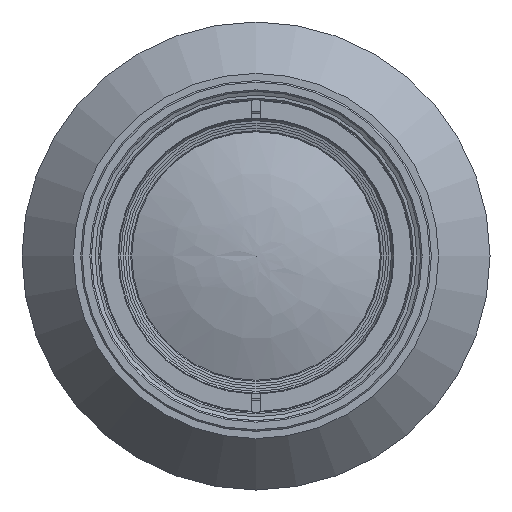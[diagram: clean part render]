
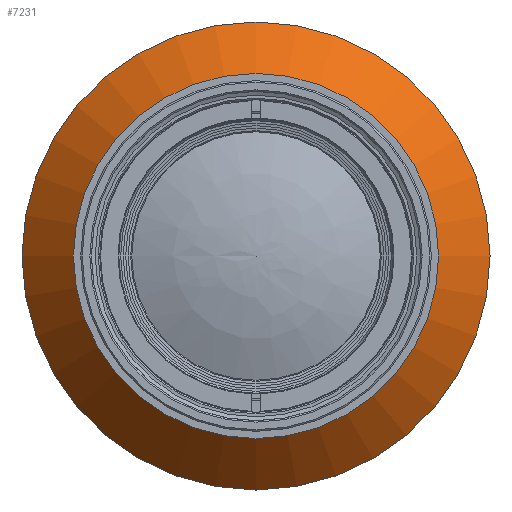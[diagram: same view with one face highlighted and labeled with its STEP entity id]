
A CAD part, left-side view. The second image highlights one B-rep face of the part: STEP entity #7231.
In plain terms, the highlighted conical face has half-angle 42 degrees and reference radius 30.7 mm.
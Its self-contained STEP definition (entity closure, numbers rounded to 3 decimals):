
#6352=CONICAL_SURFACE('',#41765,30.7,42.);
#7231=ADVANCED_FACE('',(#12489,#12490),#6352,.T.);
#11068=CIRCLE('',#41762,23.95);
#11069=CIRCLE('',#41764,30.7);
#12489=FACE_BOUND('',#12648,.T.);
#12490=FACE_BOUND('',#12649,.T.);
#12648=EDGE_LOOP('',(#15300));
#12649=EDGE_LOOP('',(#15301));
#15300=ORIENTED_EDGE('',*,*,#32037,.T.);
#15301=ORIENTED_EDGE('',*,*,#32038,.F.);
#28119=VERTEX_POINT('',#55441);
#28120=VERTEX_POINT('',#55444);
#32037=EDGE_CURVE('',#28119,#28119,#11068,.T.);
#32038=EDGE_CURVE('',#28120,#28120,#11069,.T.);
#41762=AXIS2_PLACEMENT_3D('',#55440,#45760,#45761);
#41764=AXIS2_PLACEMENT_3D('',#55443,#45764,#45765);
#41765=AXIS2_PLACEMENT_3D('',#55445,#45766,#45767);
#45760=DIRECTION('',(1.,0.,0.));
#45761=DIRECTION('',(0.,0.,1.));
#45764=DIRECTION('',(1.,0.,0.));
#45765=DIRECTION('',(0.,0.,1.));
#45766=DIRECTION('',(1.,0.,0.));
#45767=DIRECTION('',(0.,0.,1.));
#55440=CARTESIAN_POINT('',(7.775,0.,0.));
#55441=CARTESIAN_POINT('',(7.775,0.,23.95));
#55443=CARTESIAN_POINT('',(15.272,0.,0.));
#55444=CARTESIAN_POINT('',(15.272,0.,30.7));
#55445=CARTESIAN_POINT('',(15.272,0.,0.));
